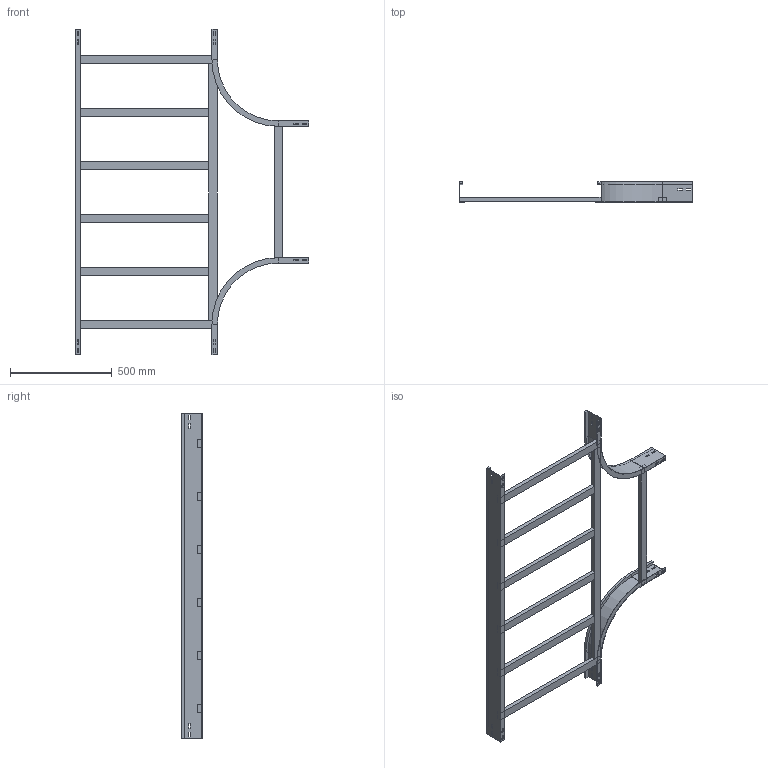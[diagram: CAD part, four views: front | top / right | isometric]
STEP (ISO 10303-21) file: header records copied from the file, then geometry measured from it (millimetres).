
FILE_DESCRIPTION (( 'STEP AP214' ), '1' );
FILE_NAME ('A2_15B3D700.step', '2025-02-21T15:49:48', ( '' ), ( '' ), 'SwSTEP 2.0', 'SolidWorks 2023', '' );
FILE_SCHEMA (( 'AUTOMOTIVE_DESIGN' ));
Length unit declared in the file: millimetre
Products named in the file (6): TRAVERSINO_700; A2_LONGH.INTERNO 90°_H100_R300; A2_TRAVERSINO_LONG._R300+700; TRAVERSINO_INTERMEDIO_R300+700; A2_LONGH.RETT_H100_R300+700; A2_15B3D700
Assembly tree (11 placements, depth 2):
  A2_15B3D700
    A2_LONGH.INTERNO 90°_H100_R300  x2
    A2_LONGH.RETT_H100_R300+700
    TRAVERSINO_700  x3
    A2_TRAVERSINO_LONG._R300+700
    TRAVERSINO_INTERMEDIO_R300+700  x4
Bounding box: 1150 x 100 x 1600 mm (x, y, z)
Volume: 6225816 mm3; surface area: 1636746.3 mm2
Topology: 11 solids, 11 shells, 206 faces, 520 edges, 336 vertices
Faces by surface type: plane 198, cylinder 8
Entity records: 3831 total; most frequent: CARTESIAN_POINT 640, ORIENTED_EDGE 616, DIRECTION 580, EDGE_CURVE 308, VECTOR 300, LINE 300, VERTEX_POINT 200, EDGE_LOOP 150
